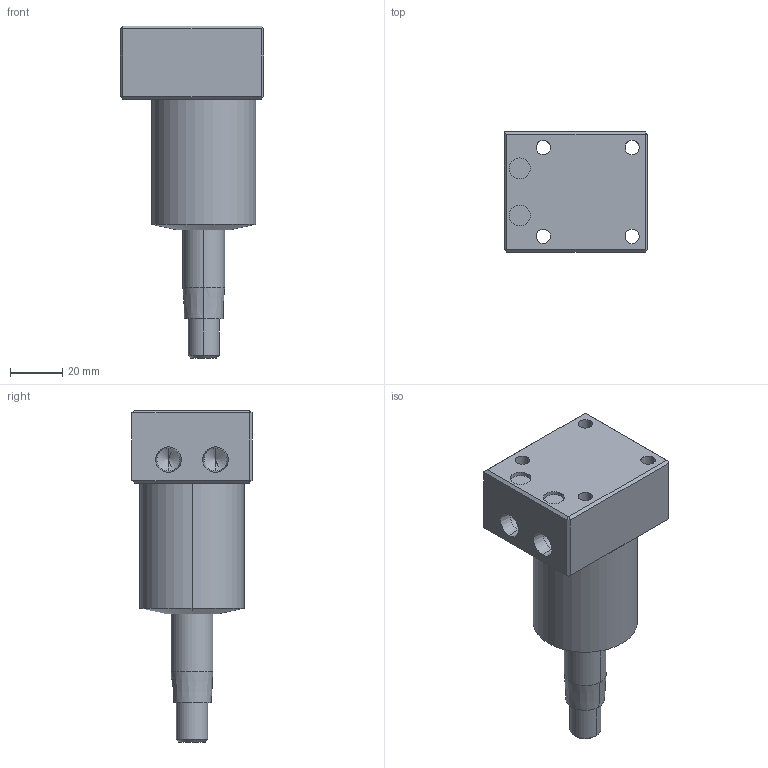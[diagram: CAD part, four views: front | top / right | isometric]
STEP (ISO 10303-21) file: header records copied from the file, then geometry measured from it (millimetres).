
FILE_DESCRIPTION (( 'STEP AP214' ), '1' );
FILE_NAME ('SB03-401-RP-BM.STEP', '2021-08-22T05:38:22', ( '' ), ( '' ), 'SwSTEP 2.0', 'SolidWorks 2019', '' );
FILE_SCHEMA (( 'AUTOMOTIVE_DESIGN' ));
Length unit declared in the file: millimetre
Products named in the file (3): 40-BM-BODY; 40-TAPER-PISTON; SB03-401-RP-BM
Assembly tree (2 placements, depth 2):
  SB03-401-RP-BM
    40-BM-BODY
    40-TAPER-PISTON
Bounding box: 55 x 46 x 127 mm (x, y, z)
Volume: 131182.2 mm3; surface area: 26309.5 mm2
Topology: 2 solids, 2 shells, 70 faces, 155 edges, 92 vertices
Faces by surface type: plane 32, cylinder 24, cone 14
Entity records: 2021 total; most frequent: DIRECTION 359, CARTESIAN_POINT 330, ORIENTED_EDGE 302, EDGE_CURVE 151, AXIS2_PLACEMENT_3D 135, VERTEX_POINT 92, VECTOR 89, LINE 89
